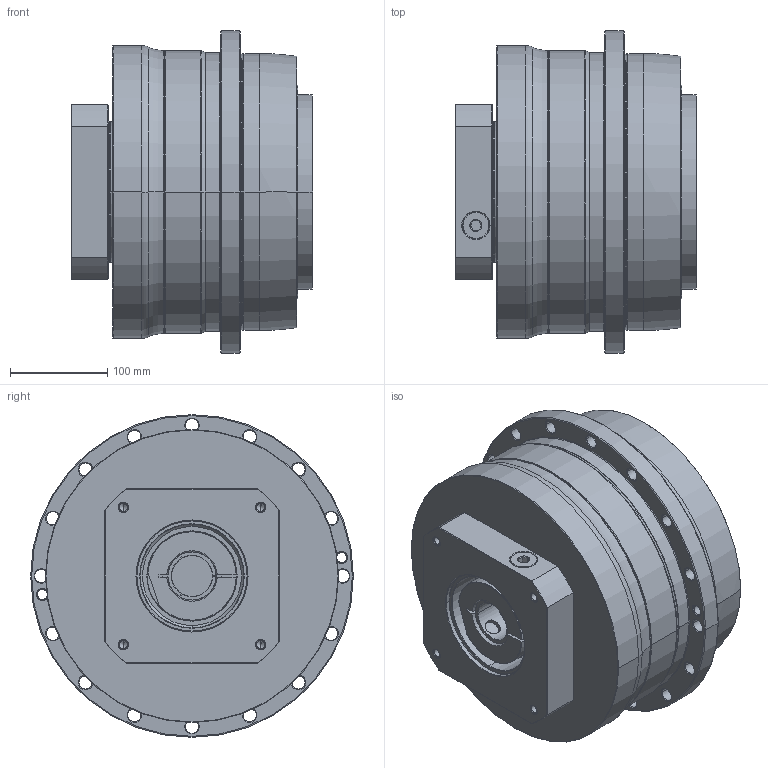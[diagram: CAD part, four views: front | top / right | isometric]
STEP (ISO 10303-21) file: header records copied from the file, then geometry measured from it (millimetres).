
FILE_DESCRIPTION((''),'2;1');
FILE_NAME('AH285_1ST_42-P0409A00101_ASM','2016-10-13T',('d00435'),(''),'PRO/ENGINEER BY PARAMETRIC TECHNOLOGY CORPORATION, 2008410','PRO/ENGINEER BY PARAMETRIC TECHNOLOGY CORPORATION, 2008410','');
FILE_SCHEMA(('CONFIG_CONTROL_DESIGN'));
Length unit declared in the file: millimetre
Products named in the file (8): P0278800003; P0359800003; P1318800201; P0409A00101; P0503A00012; P0912802201; 21711422019; AH285_1ST_42-P0409A00101_ASM
Assembly tree (7 placements, depth 2):
  AH285_1ST_42-P0409A00101_ASM
    P0278800003
    P0359800003
    P1318800201
    P0409A00101
    P0503A00012
    P0912802201
    21711422019
Bounding box: 249 x 332 x 332 mm (x, y, z)
Volume: 14626032.5 mm3; surface area: 931918 mm2
Topology: 8 solids, 34 shells, 656 faces, 1523 edges, 921 vertices
Faces by surface type: cylinder 270, cone 194, plane 116, torus 62, bspline 14
Entity records: 23110 total; most frequent: CARTESIAN_POINT 7714, DIRECTION 3529, ORIENTED_EDGE 2850, AXIS2_PLACEMENT_3D 1497, EDGE_CURVE 1477, VERTEX_POINT 921, CIRCLE 828, EDGE_LOOP 790
